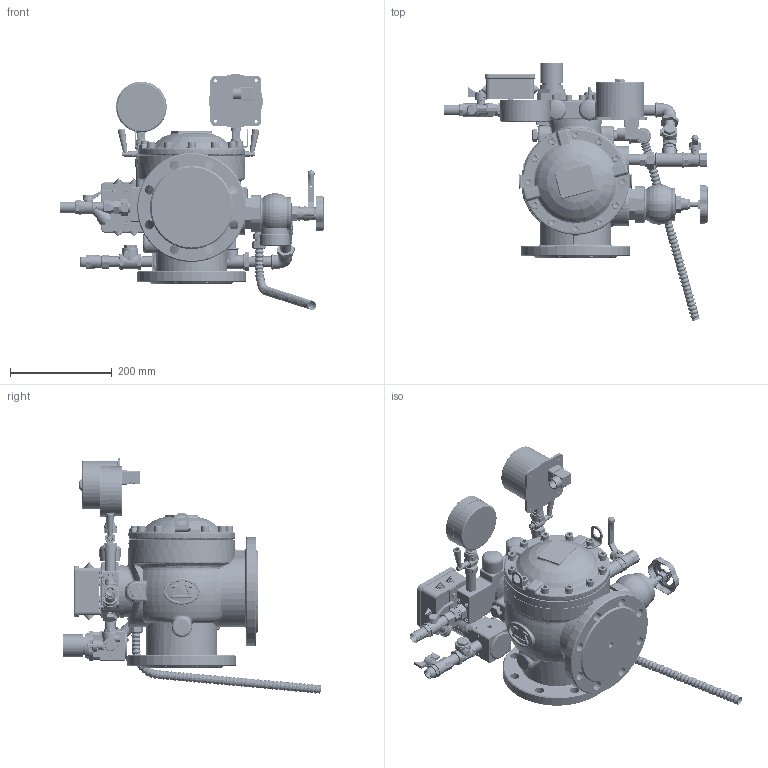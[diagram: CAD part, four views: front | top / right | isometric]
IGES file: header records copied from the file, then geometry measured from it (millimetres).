
Start section: File generated by T-FLEX CAD Version (null)
Global section: file name: 100      .igs; native system: T-FLEX CAD; date: 211014.133039; units: millimetre
Bounding box: 519.75 x 508.21 x 464.21 mm (x, y, z)
Volume: 11111715.4 mm3; surface area: 1542647.9 mm2
Topology: 289 solids, 325 shells, 15227 faces, 37515 edges, 22509 vertices
Faces by surface type: plane 5294, cylinder 4781, revolution 1770, bspline 1586, cone 1162, sphere 634
Full cylindrical faces by diameter (mm): 49 x1
